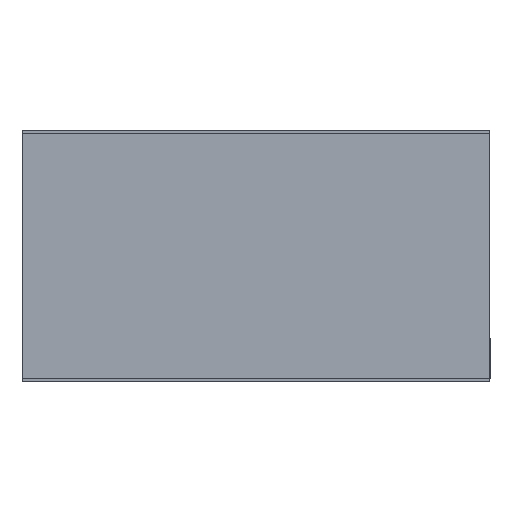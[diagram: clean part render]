
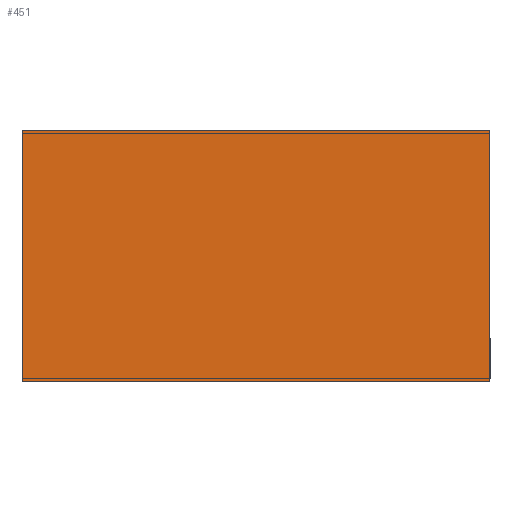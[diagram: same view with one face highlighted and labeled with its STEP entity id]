
A CAD part, left-side view. The second image highlights one B-rep face of the part: STEP entity #451.
In plain terms, the highlighted planar face has unit normal (-1, 0, 0).
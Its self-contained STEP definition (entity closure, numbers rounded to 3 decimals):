
#33=FACE_OUTER_BOUND('',#59,.T.);
#59=EDGE_LOOP('',(#355,#356,#357,#358));
#107=LINE('',#702,#167);
#108=LINE('',#705,#168);
#109=LINE('',#707,#169);
#110=LINE('',#708,#170);
#167=VECTOR('',#577,10.);
#168=VECTOR('',#580,10.);
#169=VECTOR('',#581,10.);
#170=VECTOR('',#582,10.);
#215=VERTEX_POINT('',#698);
#216=VERTEX_POINT('',#700);
#217=VERTEX_POINT('',#704);
#218=VERTEX_POINT('',#706);
#267=EDGE_CURVE('',#215,#216,#107,.T.);
#268=EDGE_CURVE('',#217,#215,#108,.T.);
#269=EDGE_CURVE('',#218,#216,#109,.T.);
#270=EDGE_CURVE('',#217,#218,#110,.T.);
#355=ORIENTED_EDGE('',*,*,#268,.T.);
#356=ORIENTED_EDGE('',*,*,#267,.T.);
#357=ORIENTED_EDGE('',*,*,#269,.F.);
#358=ORIENTED_EDGE('',*,*,#270,.F.);
#425=PLANE('',#499);
#451=ADVANCED_FACE('',(#33),#425,.T.);
#499=AXIS2_PLACEMENT_3D('',#703,#578,#579);
#577=DIRECTION('',(0.,1.,0.));
#578=DIRECTION('center_axis',(-1.,0.,0.));
#579=DIRECTION('ref_axis',(0.,0.,1.));
#580=DIRECTION('',(0.,0.,1.));
#581=DIRECTION('',(0.,0.,1.));
#582=DIRECTION('',(0.,1.,0.));
#698=CARTESIAN_POINT('',(-0.005,0.,0.45));
#700=CARTESIAN_POINT('',(-0.005,0.85,0.45));
#702=CARTESIAN_POINT('',(-0.005,0.,0.45));
#703=CARTESIAN_POINT('Origin',(-0.005,-0.001,0.223));
#704=CARTESIAN_POINT('',(-0.005,0.,-0.005));
#705=CARTESIAN_POINT('',(-0.005,0.,-0.005));
#706=CARTESIAN_POINT('',(-0.005,0.85,-0.005));
#707=CARTESIAN_POINT('',(-0.005,0.85,-0.005));
#708=CARTESIAN_POINT('',(-0.005,0.,-0.005));
